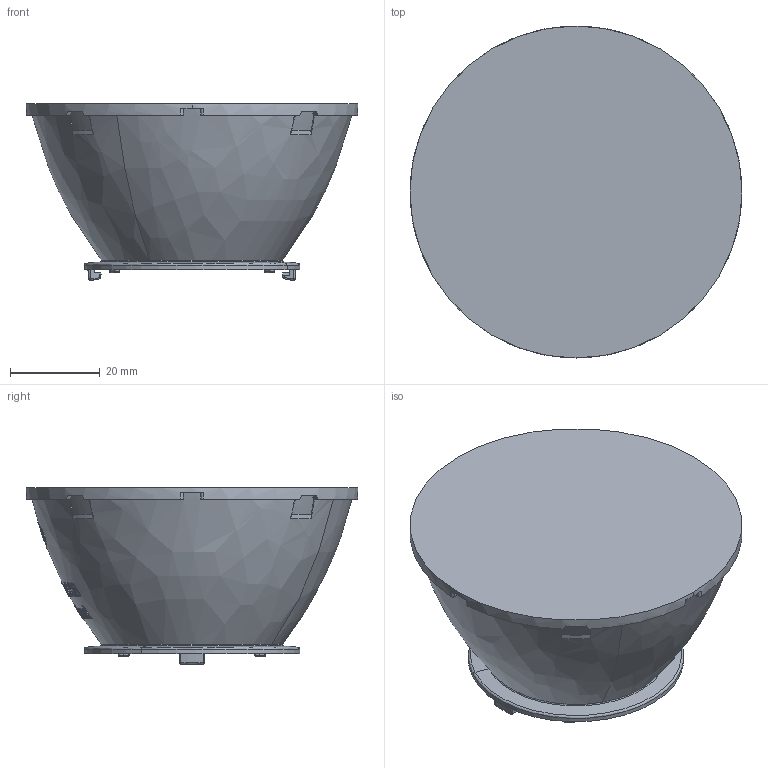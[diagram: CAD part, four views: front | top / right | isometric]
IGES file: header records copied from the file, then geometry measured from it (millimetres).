
Global section: file name: C:\CoreTechnologie\3D-In/022YJ08Y04.igs; native system: CT CoreTechnologie 3D Evolution; preprocessor: 2006; author: CT CoreTechnologie; organization: CT CoreTechnologie; date: 220506.092917; units: millimetre
Bounding box: 74 x 74 x 39.25 mm (x, y, z)
Volume: 103763.1 mm3; surface area: 14511.6 mm2
Topology: 1 solids, 1 shells, 370 faces, 931 edges, 607 vertices
Faces by surface type: plane 170, revolution 115, bspline 85
